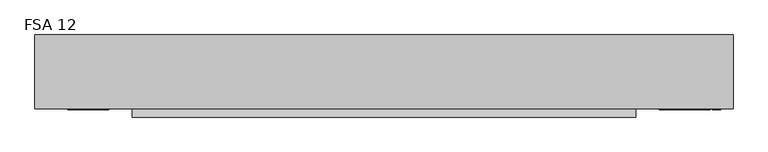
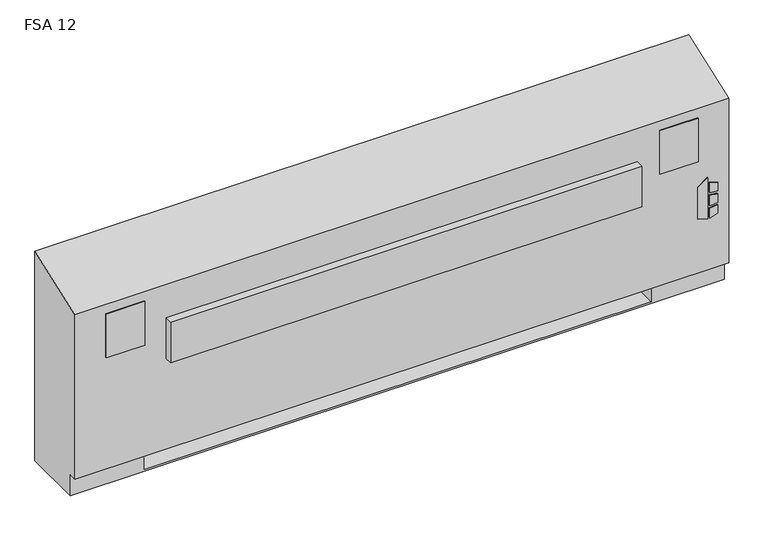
"""IFC4 building model written with IfcOpenShell, lengths in millimetres: proxy geometry, Vertical_Fan_Coil_Unit_-_FSA_-_IEC_-_4-Pipe_FS-FR_RH_2022 : FSA 12."""

from ifc_helpers import new_model, si_unit, point, frame, frame_2d, origin, place, context, project, spatial, polyline, circle_curve, trimmed, segment, composite_curve, outline, extrude, source, transform, mapped, element, save
from ifc_brep_helpers import plane_surface, revolved_surface, advanced_brep


def fsa_12_46d8cc71(model_context):
    return source(origin(), model_context, "Body", "SolidModel", [
        extrude(outline(polyline([(263.9480703, 1128.7868862), (254.0, 1160.9602728), (396.1709244, 1160.9602728), (373.1489183, 1128.7868862), (263.9480703, 1128.7868862)])), frame((0.0, 12.7, 0.0), z_axis=(0.0, 1.0, 0.0), x_axis=(0.0, 0.0, 1.0)), (0.0, 0.0, 1.0), 3.175),
        extrude(outline(polyline([(342.9473557, 1167.7186058), (339.7449632, 1193.8), (368.9738042, 1193.8), (377.0382193, 1167.7186058), (342.9473557, 1167.7186058)])), frame((0.0, 12.7, 0.0), z_axis=(0.0, 1.0, 0.0), x_axis=(0.0, 0.0, 1.0)), (0.0, 0.0, 1.0), 3.175),
        extrude(outline(polyline([(291.0838288, 1193.8), (287.4183279, 1167.7186058), (254.0, 1167.7186058), (262.6342372, 1193.8), (291.0838288, 1193.8)])), frame((0.0, 12.7, 0.0), z_axis=(0.0, 1.0, 0.0), x_axis=(0.0, 0.0, 1.0)), (0.0, 0.0, 1.0), 3.175),
        extrude(outline(polyline([(330.3989903, 1193.8), (332.6808166, 1167.7186058), (296.7432681, 1167.7186058), (299.4845331, 1193.8), (330.3989903, 1193.8)])), frame((0.0, 12.7, 0.0), z_axis=(0.0, 1.0, 0.0), x_axis=(0.0, 0.0, 1.0)), (0.0, 0.0, 1.0), 3.175),
        extrude(outline(polyline([(-806.45, 81.534), (-806.45, 223.266), (-685.8, 223.266), (-685.8, 81.534), (-806.45, 81.534)])), frame((0.0, 0.0, 327.025), z_axis=(0.0, 0.0, 1.0), x_axis=(1.0, 0.0, 0.0)), (0.0, 0.0, 1.0), 260.35),
        extrude(outline(polyline([(-698.5, 12.7), (-825.5, 12.7), (-825.5, 15.875), (-698.5, 15.875), (-698.5, 12.7)])), frame((0.0, 0.0, 463.55), z_axis=(0.0, 0.0, 1.0), x_axis=(1.0, 0.0, 0.0)), (0.0, 0.0, 1.0), 152.4),
        extrude(outline(polyline([(1130.3, 12.7), (1003.3, 12.7), (1003.3, 15.875), (1130.3, 15.875), (1130.3, 12.7)])), frame((0.0, 0.0, 463.55), z_axis=(0.0, 0.0, 1.0), x_axis=(1.0, 0.0, 0.0)), (0.0, 0.0, 1.0), 152.4),
        extrude(outline(composite_curve([segment(trimmed(circle_curve(frame_2d((1054.1, 130.175)), 9.525), [point((1044.575, 130.175))], [point((1063.625, 130.175))], False, "CARTESIAN"), True, "CONTINUOUS"), segment(trimmed(circle_curve(frame_2d((1054.1, 130.175)), 9.525), [point((1063.625, 130.175))], [point((1044.575, 130.175))], False, "CARTESIAN"), True, "CONTINUOUS")], self_intersect=False)), frame((0.0, 0.0, 101.6), z_axis=(0.0, 0.0, 1.0), x_axis=(1.0, 0.0, 0.0)), (0.0, 0.0, 1.0), 25.4),
        extrude(outline(polyline([(1155.7, 196.85), (1155.7, 63.5), (990.6, 63.5), (990.6, 196.85), (1155.7, 196.85)])), frame((0.0, 0.0, 127.0), z_axis=(0.0, 0.0, 1.0), x_axis=(1.0, 0.0, 0.0)), (0.0, 0.0, 1.0), 50.8),
        extrude(outline(polyline([(930.275, -9.525), (-625.475, -9.525), (-625.475, 15.875), (930.275, 15.875), (930.275, -9.525)])), frame((0.0, 0.0, 389.3009245), z_axis=(0.0, 0.0, 1.0), x_axis=(1.0, 0.0, 0.0)), (0.0, 0.0, 1.0), 142.875),
        extrude(outline(composite_curve([segment(trimmed(circle_curve(frame_2d((109.0168, 457.2)), 7.9375), [point((109.0168, 465.1375))], [point((109.0168, 449.2625))], False, "CARTESIAN"), True, "CONTINUOUS"), segment(trimmed(circle_curve(frame_2d((109.0168, 457.2)), 7.9375), [point((109.0168, 449.2625))], [point((109.0168, 465.1375))], False, "CARTESIAN"), True, "CONTINUOUS")], self_intersect=False)), frame((990.6, 0.0, 0.0), z_axis=(1.0, 0.0, 0.0), x_axis=(0.0, 1.0, 0.0)), (0.0, 0.0, 1.0), 50.8),
        extrude(outline(composite_curve([segment(trimmed(circle_curve(frame_2d((172.085, 460.0194)), 7.9375), [point((172.085, 467.9569))], [point((172.085, 452.0819))], False, "CARTESIAN"), True, "CONTINUOUS"), segment(trimmed(circle_curve(frame_2d((172.085, 460.0194)), 7.9375), [point((172.085, 452.0819))], [point((172.085, 467.9569))], False, "CARTESIAN"), True, "CONTINUOUS")], self_intersect=False)), frame((990.6, 0.0, 0.0), z_axis=(1.0, 0.0, 0.0), x_axis=(0.0, 1.0, 0.0)), (0.0, 0.0, 1.0), 50.8),
        extrude(outline(composite_curve([segment(trimmed(circle_curve(frame_2d((53.975, 416.56)), 7.9502), [point((53.975, 424.5102))], [point((53.975, 408.6098))], False, "CARTESIAN"), True, "CONTINUOUS"), segment(trimmed(circle_curve(frame_2d((53.975, 416.56)), 7.9502), [point((53.975, 408.6098))], [point((53.975, 424.5102))], False, "CARTESIAN"), True, "CONTINUOUS")], self_intersect=False)), frame((990.6, 0.0, 0.0), z_axis=(1.0, 0.0, 0.0), x_axis=(0.0, 1.0, 0.0)), (0.0, 0.0, 1.0), 50.8),
        extrude(outline(composite_curve([segment(trimmed(circle_curve(frame_2d((130.175, 554.99)), 7.9502), [point((130.175, 562.9402))], [point((130.175, 547.0398))], False, "CARTESIAN"), True, "CONTINUOUS"), segment(trimmed(circle_curve(frame_2d((130.175, 554.99)), 7.9502), [point((130.175, 547.0398))], [point((130.175, 562.9402))], False, "CARTESIAN"), True, "CONTINUOUS")], self_intersect=False)), frame((990.6, 0.0, 0.0), z_axis=(1.0, 0.0, 0.0), x_axis=(0.0, 1.0, 0.0)), (0.0, 0.0, 1.0), 50.8),
        advanced_brep(
        [(-927.1, 244.475, 0.0), (1231.9, 244.475, 0.0), (1231.9, 41.275, 0.0), (-927.1, 41.275, 0.0), (-927.1, 244.475, 730.25), (1231.9, 244.475, 730.25), (990.6, 244.475, 73.025), (1219.2, 244.475, 73.025), (1219.2, 244.475, 654.05), (990.6, 244.475, 654.05), (990.6, 244.475, 414.8650565), (1019.175, 244.475, 414.8650565), (1019.175, 244.475, 385.2349435), (990.6, 244.475, 385.2349435), (990.6, 244.475, 287.3375), (1019.175, 244.475, 287.3375), (1019.175, 244.475, 258.7625), (990.6, 244.475, 258.7625), (990.6, 244.475, 141.2875), (1019.175, 244.475, 141.2875), (1019.175, 244.475, 112.7125), (990.6, 244.475, 112.7125), (-685.8, 244.475, 654.05), (-914.4, 244.475, 654.05), (-914.4, 244.475, 73.025), (-685.8, 244.475, 73.025), (-685.8, 244.475, 112.7125), (-714.375, 244.475, 112.7125), (-714.375, 244.475, 141.2875), (-685.8, 244.475, 141.2875), (-685.8, 244.475, 258.7625), (-714.375, 244.475, 258.7625), (-714.375, 244.475, 287.3375), (-685.8, 244.475, 287.3375), (-685.8, 244.475, 385.2349435), (-714.375, 244.475, 385.2349435), (-714.375, 244.475, 414.8650565), (-685.8, 244.475, 414.8650565), (1008.8626, 244.475, 127.0), (997.7374, 244.475, 127.0), (1008.8626, 244.475, 400.05), (997.7374, 244.475, 400.05), (1008.8626, 244.475, 273.05), (997.7374, 244.475, 273.05), (-692.9374, 244.475, 127.0), (-704.0626, 244.475, 127.0), (-692.9374, 244.475, 273.05), (-704.0626, 244.475, 273.05), (-692.9374, 244.475, 400.05), (-704.0626, 244.475, 400.05), (-927.1, 41.275, 73.025), (-927.1, 15.875, 73.025), (-927.1, 15.875, 647.7), (1231.9, 15.875, 73.025), (1231.9, 15.875, 647.7), (1231.9, 41.275, 73.025), (-685.8, 41.275, 73.025), (-685.8, 225.425, 73.025), (990.6, 225.425, 73.025), (990.6, 41.275, 73.025), (990.6, 41.275, 6.35), (-685.8, 41.275, 6.35), (990.6, 41.275, 654.05), (1219.2, 41.275, 654.05), (1219.2, 41.275, 73.025), (990.6, 41.275, 73.025), (-685.8, 41.275, 654.05), (-685.8, 41.275, 73.025), (-914.4, 41.275, 73.025), (-914.4, 41.275, 654.05), (990.6, 225.425, 73.025), (990.6, 238.125, 112.7125), (990.6, 238.125, 141.2875), (990.6, 238.125, 258.7625), (990.6, 238.125, 287.3375), (990.6, 238.125, 385.2349435), (990.6, 238.125, 414.8650565), (-685.8, 225.425, 73.025), (-685.8, 238.125, 414.8650565), (-685.8, 238.125, 385.2349435), (-685.8, 238.125, 287.3375), (-685.8, 238.125, 258.7625), (-685.8, 238.125, 141.2875), (-685.8, 238.125, 112.7125), (-685.8, 225.425, 6.35), (990.6, 225.425, 6.35), (1019.175, 238.125, 112.7125), (1019.175, 238.125, 141.2875), (997.7374, 238.125, 127.0), (1008.8626, 238.125, 127.0), (1019.175, 238.125, 258.7625), (1019.175, 238.125, 287.3375), (997.7374, 238.125, 273.05), (1008.8626, 238.125, 273.05), (1019.175, 238.125, 385.2349435), (1019.175, 238.125, 414.8650565), (997.7374, 238.125, 400.05), (1008.8626, 238.125, 400.05), (-714.375, 238.125, 141.2875), (-714.375, 238.125, 112.7125), (-704.0626, 238.125, 127.0), (-692.9374, 238.125, 127.0), (-714.375, 238.125, 287.3375), (-714.375, 238.125, 258.7625), (-704.0626, 238.125, 273.05), (-692.9374, 238.125, 273.05), (-714.375, 238.125, 414.8650565), (-714.375, 238.125, 385.2349435), (-704.0626, 238.125, 400.05), (-692.9374, 238.125, 400.05)],
        [
            (0, 1),
            (1, 2),
            (2, 3),
            (3, 0),
            (0, 4),
            (4, 5),
            (5, 1),
            (6, 7),
            (7, 8),
            (8, 9),
            (9, 10),
            (10, 11),
            (11, 12),
            (12, 13),
            (13, 14),
            (14, 15),
            (15, 16),
            (16, 17),
            (17, 18),
            (18, 19),
            (19, 20),
            (20, 21),
            (21, 6),
            (22, 23),
            (23, 24),
            (24, 25),
            (25, 26),
            (26, 27),
            (27, 28),
            (28, 29),
            (29, 30),
            (30, 31),
            (31, 32),
            (32, 33),
            (33, 34),
            (34, 35),
            (35, 36),
            (36, 37),
            (37, 22),
            (38, 39, circle_curve(frame((1003.3, 244.475, 127.0), z_axis=(0.0, -1.0, 0.0), x_axis=(-1.0, 0.0, 0.0)), 5.5626)),
            (39, 38, circle_curve(frame((1003.3, 244.475, 127.0), z_axis=(0.0, -1.0, 0.0), x_axis=(-1.0, 0.0, 0.0)), 5.5626)),
            (40, 41, circle_curve(frame((1003.3, 244.475, 400.05), z_axis=(0.0, -1.0, 0.0), x_axis=(-1.0, 0.0, 0.0)), 5.5626)),
            (41, 40, circle_curve(frame((1003.3, 244.475, 400.05), z_axis=(0.0, -1.0, 0.0), x_axis=(-1.0, 0.0, 0.0)), 5.5626)),
            (42, 43, circle_curve(frame((1003.3, 244.475, 273.05), z_axis=(0.0, -1.0, 0.0), x_axis=(-1.0, 0.0, 0.0)), 5.5626)),
            (43, 42, circle_curve(frame((1003.3, 244.475, 273.05), z_axis=(0.0, -1.0, 0.0), x_axis=(-1.0, 0.0, 0.0)), 5.5626)),
            (44, 45, circle_curve(frame((-698.5, 244.475, 127.0), z_axis=(0.0, -1.0, 0.0), x_axis=(-1.0, 0.0, 0.0)), 5.5626)),
            (45, 44, circle_curve(frame((-698.5, 244.475, 127.0), z_axis=(0.0, -1.0, 0.0), x_axis=(-1.0, 0.0, 0.0)), 5.5626)),
            (46, 47, circle_curve(frame((-698.5, 244.475, 273.05), z_axis=(0.0, -1.0, 0.0), x_axis=(-1.0, 0.0, 0.0)), 5.5626)),
            (47, 46, circle_curve(frame((-698.5, 244.475, 273.05), z_axis=(0.0, -1.0, 0.0), x_axis=(-1.0, 0.0, 0.0)), 5.5626)),
            (48, 49, circle_curve(frame((-698.5, 244.475, 400.05), z_axis=(0.0, -1.0, 0.0), x_axis=(-1.0, 0.0, 0.0)), 5.5626)),
            (49, 48, circle_curve(frame((-698.5, 244.475, 400.05), z_axis=(0.0, -1.0, 0.0), x_axis=(-1.0, 0.0, 0.0)), 5.5626)),
            (3, 50),
            (50, 51),
            (51, 52),
            (52, 4),
            (51, 53),
            (53, 54),
            (54, 52),
            (5, 54),
            (53, 55),
            (55, 2),
            (50, 56),
            (56, 57),
            (57, 58),
            (58, 59),
            (59, 55),
            (59, 60),
            (60, 61),
            (61, 56),
            (62, 63),
            (63, 64),
            (64, 65),
            (65, 62),
            (66, 67),
            (67, 68),
            (68, 69),
            (69, 66),
            (65, 70),
            (70, 6),
            (21, 71),
            (71, 72),
            (72, 18),
            (17, 73),
            (73, 74),
            (74, 14),
            (13, 75),
            (75, 76),
            (76, 10),
            (9, 62),
            (64, 7),
            (63, 8),
            (69, 23),
            (22, 66),
            (68, 24),
            (67, 77),
            (77, 25),
            (37, 78),
            (78, 79),
            (79, 34),
            (33, 80),
            (80, 81),
            (81, 30),
            (29, 82),
            (82, 83),
            (83, 26),
            (57, 84),
            (84, 85),
            (85, 58),
            (85, 60),
            (84, 61),
            (71, 86),
            (86, 87),
            (87, 72),
            (88, 89, circle_curve(frame((1003.3, 238.125, 127.0), z_axis=(0.0, 1.0, 0.0), x_axis=(-1.0, 0.0, 0.0)), 5.5626)),
            (89, 88, circle_curve(frame((1003.3, 238.125, 127.0), z_axis=(0.0, 1.0, 0.0), x_axis=(-1.0, 0.0, 0.0)), 5.5626)),
            (73, 90),
            (90, 91),
            (91, 74),
            (92, 93, circle_curve(frame((1003.3, 238.125, 273.05), z_axis=(0.0, 1.0, 0.0), x_axis=(-1.0, 0.0, 0.0)), 5.5626)),
            (93, 92, circle_curve(frame((1003.3, 238.125, 273.05), z_axis=(0.0, 1.0, 0.0), x_axis=(-1.0, 0.0, 0.0)), 5.5626)),
            (75, 94),
            (94, 95),
            (95, 76),
            (96, 97, circle_curve(frame((1003.3, 238.125, 400.05), z_axis=(0.0, 1.0, 0.0), x_axis=(-1.0, 0.0, 0.0)), 5.5626)),
            (97, 96, circle_curve(frame((1003.3, 238.125, 400.05), z_axis=(0.0, 1.0, 0.0), x_axis=(-1.0, 0.0, 0.0)), 5.5626)),
            (98, 99),
            (99, 83),
            (82, 98),
            (100, 101, circle_curve(frame((-698.5, 238.125, 127.0), z_axis=(0.0, 1.0, 0.0), x_axis=(-1.0, 0.0, 0.0)), 5.5626)),
            (101, 100, circle_curve(frame((-698.5, 238.125, 127.0), z_axis=(0.0, 1.0, 0.0), x_axis=(-1.0, 0.0, 0.0)), 5.5626)),
            (102, 103),
            (103, 81),
            (80, 102),
            (104, 105, circle_curve(frame((-698.5, 238.125, 273.05), z_axis=(0.0, 1.0, 0.0), x_axis=(-1.0, 0.0, 0.0)), 5.5626)),
            (105, 104, circle_curve(frame((-698.5, 238.125, 273.05), z_axis=(0.0, 1.0, 0.0), x_axis=(-1.0, 0.0, 0.0)), 5.5626)),
            (106, 107),
            (107, 79),
            (78, 106),
            (108, 109, circle_curve(frame((-698.5, 238.125, 400.05), z_axis=(0.0, 1.0, 0.0), x_axis=(-1.0, 0.0, 0.0)), 5.5626)),
            (109, 108, circle_curve(frame((-698.5, 238.125, 400.05), z_axis=(0.0, 1.0, 0.0), x_axis=(-1.0, 0.0, 0.0)), 5.5626)),
            (87, 19),
            (86, 20),
            (91, 15),
            (90, 16),
            (95, 11),
            (94, 12),
            (28, 98),
            (99, 27),
            (32, 102),
            (103, 31),
            (36, 106),
            (107, 35),
            (88, 39),
            (38, 89),
            (96, 41),
            (40, 97),
            (92, 43),
            (42, 93),
            (100, 45),
            (44, 101),
            (104, 47),
            (46, 105),
            (108, 49),
            (48, 109),
        ],
        [
            plane_surface(frame((-927.1, 244.475, 0.0), z_axis=(0.0, 0.0, -1.0), x_axis=(1.0, 0.0, 0.0))),
            plane_surface(frame((1231.9, 244.475, 730.25), z_axis=(0.0, 1.0, 0.0), x_axis=(0.0, 0.0, -1.0))),
            plane_surface(frame((-927.1, 244.475, 730.25), z_axis=(-1.0, 0.0, 0.0), x_axis=(0.0, 0.0, -1.0))),
            plane_surface(frame((-927.1, 15.875, 730.25), z_axis=(0.0, -1.0, 0.0), x_axis=(0.0, 0.0, -1.0))),
            plane_surface(frame((1231.9, 15.875, 730.25), z_axis=(1.0, 0.0, 0.0), x_axis=(0.0, 0.0, -1.0))),
            plane_surface(frame((-927.1, 15.875, 73.025), z_axis=(0.0, 0.0, -1.0), x_axis=(1.0, 0.0, 0.0))),
            plane_surface(frame((-927.1, 41.275, 73.025), z_axis=(0.0, -1.0, 0.0), x_axis=(1.0, 0.0, 0.0))),
            plane_surface(frame((990.6, 41.275, 654.05), z_axis=(0.0, 1.0, 0.0), x_axis=(0.0, 0.0, -1.0))),
            plane_surface(frame((990.6, 41.275, 654.05), z_axis=(1.0, 0.0, 0.0), x_axis=(0.0, 1.0, 0.0))),
            plane_surface(frame((990.6, 41.275, 73.025), z_axis=(0.0, 0.0, 1.0), x_axis=(0.0, 1.0, 0.0))),
            plane_surface(frame((1219.2, 41.275, 73.025), z_axis=(-1.0, 0.0, 0.0), x_axis=(0.0, 1.0, 0.0))),
            plane_surface(frame((1219.2, 41.275, 654.05), z_axis=(0.0, 0.0, -1.0), x_axis=(0.0, 1.0, 0.0))),
            plane_surface(frame((-685.8, 41.275, 654.05), z_axis=(0.0, 0.0, -1.0), x_axis=(0.0, 1.0, 0.0))),
            plane_surface(frame((-914.4, 41.275, 654.05), z_axis=(1.0, 0.0, 0.0), x_axis=(0.0, 1.0, 0.0))),
            plane_surface(frame((-914.4, 41.275, 73.025), z_axis=(0.0, 0.0, 1.0), x_axis=(0.0, 1.0, 0.0))),
            plane_surface(frame((-685.8, 41.275, 73.025), z_axis=(-1.0, 0.0, 0.0), x_axis=(0.0, 1.0, 0.0))),
            plane_surface(frame((990.6, 225.425, 73.025), z_axis=(0.0, -1.0, 0.0), x_axis=(0.0, 0.0, -1.0))),
            plane_surface(frame((990.6, 225.425, 73.025), z_axis=(-1.0, 0.0, 0.0), x_axis=(0.0, -1.0, 0.0))),
            plane_surface(frame((990.6, 225.425, 6.35), z_axis=(0.0, 0.0, 1.0), x_axis=(0.0, -1.0, 0.0))),
            plane_surface(frame((-685.8, 225.425, 6.35), z_axis=(1.0, 0.0, 0.0), x_axis=(0.0, -1.0, 0.0))),
            plane_surface(frame((1019.175, 238.125, 141.2875), z_axis=(0.0, -1.0, 0.0), x_axis=(-1.0, 0.0, 0.0))),
            plane_surface(frame((990.6, 244.475, 141.2875), z_axis=(0.0, 0.0, 1.0), x_axis=(0.0, -1.0, 0.0))),
            plane_surface(frame((1019.175, 244.475, 141.2875), z_axis=(1.0, 0.0, 0.0), x_axis=(0.0, -1.0, 0.0))),
            plane_surface(frame((1019.175, 244.475, 112.7125), z_axis=(0.0, 0.0, -1.0), x_axis=(0.0, -1.0, 0.0))),
            plane_surface(frame((990.6, 244.475, 287.3375), z_axis=(0.0, 0.0, 1.0), x_axis=(0.0, -1.0, 0.0))),
            plane_surface(frame((1019.175, 244.475, 287.3375), z_axis=(1.0, 0.0, 0.0), x_axis=(0.0, -1.0, 0.0))),
            plane_surface(frame((1019.175, 244.475, 258.7625), z_axis=(0.0, 0.0, -1.0), x_axis=(0.0, -1.0, 0.0))),
            plane_surface(frame((990.6, 244.475, 414.8650565), z_axis=(0.0, 0.0, 1.0), x_axis=(0.0, -1.0, 0.0))),
            plane_surface(frame((1019.175, 244.475, 414.8650565), z_axis=(1.0, 0.0, 0.0), x_axis=(0.0, -1.0, 0.0))),
            plane_surface(frame((1019.175, 244.475, 385.2349435), z_axis=(0.0, 0.0, -1.0), x_axis=(0.0, -1.0, 0.0))),
            plane_surface(frame((-714.375, 244.475, 141.2875), z_axis=(0.0, 0.0, 1.0), x_axis=(0.0, -1.0, 0.0))),
            plane_surface(frame((-685.8, 244.475, 112.7125), z_axis=(0.0, 0.0, -1.0), x_axis=(0.0, -1.0, 0.0))),
            plane_surface(frame((-714.375, 244.475, 112.7125), z_axis=(-1.0, 0.0, 0.0), x_axis=(0.0, -1.0, 0.0))),
            plane_surface(frame((-714.375, 244.475, 287.3375), z_axis=(0.0, 0.0, 1.0), x_axis=(0.0, -1.0, 0.0))),
            plane_surface(frame((-685.8, 244.475, 258.7625), z_axis=(0.0, 0.0, -1.0), x_axis=(0.0, -1.0, 0.0))),
            plane_surface(frame((-714.375, 244.475, 258.7625), z_axis=(-1.0, 0.0, 0.0), x_axis=(0.0, -1.0, 0.0))),
            plane_surface(frame((-714.375, 244.475, 414.8650565), z_axis=(0.0, 0.0, 1.0), x_axis=(0.0, -1.0, 0.0))),
            plane_surface(frame((-685.8, 244.475, 385.2349435), z_axis=(0.0, 0.0, -1.0), x_axis=(0.0, -1.0, 0.0))),
            plane_surface(frame((-714.375, 244.475, 385.2349435), z_axis=(-1.0, 0.0, 0.0), x_axis=(0.0, -1.0, 0.0))),
            revolved_surface(polyline([(997.7374, 238.125, 127.0), (997.7374, 244.475, 127.0)]), (1003.3, 244.475, 127.0), (0.0, -1.0, 0.0)),
            revolved_surface(polyline([(997.7374, 238.125, 400.05), (997.7374, 244.475, 400.05)]), (1003.3, 244.475, 400.05), (0.0, -1.0, 0.0)),
            revolved_surface(polyline([(997.7374, 238.125, 273.05), (997.7374, 244.475, 273.05)]), (1003.3, 244.475, 273.05), (0.0, -1.0, 0.0)),
            revolved_surface(polyline([(-704.0626, 238.125, 127.0), (-704.0626, 244.475, 127.0)]), (-698.5, 244.475, 127.0), (0.0, -1.0, 0.0)),
            revolved_surface(polyline([(-704.0626, 238.125, 273.05), (-704.0626, 244.475, 273.05)]), (-698.5, 244.475, 273.05), (0.0, -1.0, 0.0)),
            revolved_surface(polyline([(-704.0626, 238.125, 400.05), (-704.0626, 244.475, 400.05)]), (-698.5, 244.475, 400.05), (0.0, -1.0, 0.0)),
            plane_surface(frame((-927.1, 244.475, 730.25), z_axis=(0.0, -0.33964446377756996, 0.9405538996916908), x_axis=(1.0, 0.0, 0.0))),
        ],
        [
            (0, [[1, 2, 3, 4]]),
            (1, [[-1, 5, 6, 7], [8, 9, 10, 11, 12, 13, 14, 15, 16, 17, 18, 19, 20, 21, 22, 23], [24, 25, 26, 27, 28, 29, 30, 31, 32, 33, 34, 35, 36, 37, 38, 39], [40, 41], [42, 43], [44, 45], [46, 47], [48, 49], [50, 51]]),
            (2, [[-5, -4, 52, 53, 54, 55]]),
            (3, [[56, 57, 58, -54]]),
            (4, [[-7, 59, -57, 60, 61, -2]]),
            (5, [[-53, 62, 63, 64, 65, 66, -60, -56]]),
            (6, [[-3, -61, -66, 67, 68, 69, -62, -52]]),
            (7, [[70, 71, 72, 73]]),
            (7, [[74, 75, 76, 77]]),
            (8, [[-73, 78, 79, -23, 80, 81, 82, -19, 83, 84, 85, -15, 86, 87, 88, -11, 89]]),
            (9, [[-72, 90, -8, -79, -78]]),
            (10, [[-71, 91, -9, -90]]),
            (11, [[-70, -89, -10, -91]]),
            (12, [[-77, 92, -24, 93]]),
            (13, [[-76, 94, -25, -92]]),
            (14, [[-75, 95, 96, -26, -94]]),
            (15, [[-74, -93, -39, 97, 98, 99, -35, 100, 101, 102, -31, 103, 104, 105, -27, -96, -95]]),
            (16, [[-64, 106, 107, 108]]),
            (17, [[-108, 109, -67, -65]]),
            (18, [[-107, 110, -68, -109]]),
            (19, [[-106, -63, -69, -110]]),
            (20, [[111, 112, 113, -81], [114, 115]]),
            (20, [[116, 117, 118, -84], [119, 120]]),
            (20, [[121, 122, 123, -87], [124, 125]]),
            (20, [[126, 127, -104, 128], [129, 130]]),
            (20, [[131, 132, -101, 133], [134, 135]]),
            (20, [[136, 137, -98, 138], [139, 140]]),
            (21, [[-113, 141, -20, -82]]),
            (22, [[-112, 142, -21, -141]]),
            (23, [[-111, -80, -22, -142]]),
            (24, [[-118, 143, -16, -85]]),
            (25, [[-117, 144, -17, -143]]),
            (26, [[-116, -83, -18, -144]]),
            (27, [[-123, 145, -12, -88]]),
            (28, [[-122, 146, -13, -145]]),
            (29, [[-121, -86, -14, -146]]),
            (30, [[-128, -103, -30, 147]]),
            (31, [[-127, 148, -28, -105]]),
            (32, [[-126, -147, -29, -148]]),
            (33, [[-133, -100, -34, 149]]),
            (34, [[-132, 150, -32, -102]]),
            (35, [[-131, -149, -33, -150]]),
            (36, [[-138, -97, -38, 151]]),
            (37, [[-137, 152, -36, -99]]),
            (38, [[-136, -151, -37, -152]]),
            (39, [[153, -40, 154, -114]]),
            (39, [[-153, -115, -154, -41]]),
            (40, [[155, -42, 156, -124]]),
            (40, [[-155, -125, -156, -43]]),
            (41, [[157, -44, 158, -119]]),
            (41, [[-157, -120, -158, -45]]),
            (42, [[159, -46, 160, -129]]),
            (42, [[-159, -130, -160, -47]]),
            (43, [[161, -48, 162, -134]]),
            (43, [[-161, -135, -162, -49]]),
            (44, [[163, -50, 164, -139]]),
            (44, [[-163, -140, -164, -51]]),
            (45, [[-6, -55, -58, -59]]),
        ],
    ),
    ])


if __name__ == "__main__":
    model = new_model("IFC4")
    model_context = context("Model", 3, world=origin())
    ifc_project = project(units=[si_unit("LENGTHUNIT", "METRE", prefix="MILLI")], contexts=[model_context])
    site = spatial("IfcSite", under=ifc_project)
    building = spatial("IfcBuilding", under=site)
    placement = place(None, origin())
    fsa_12_shape = fsa_12_46d8cc71(model_context)
    element("IfcBuildingElementProxy", 1, Name="Vertical_Fan_Coil_Unit_-_FSA_-_IEC_-_4-Pipe_FS-FR_RH_2022 : FSA 12", ObjectType="Vertical_Fan_Coil_Unit_-_FSA_-_IEC_-_4-Pipe_FS-FR_RH_2022 : FSA 12", at=placement, inside=building, context=model_context, shape_type="MappedRepresentation", body=[
        mapped(fsa_12_shape, transform((0.0, 0.0, 0.0), x_axis=(1.0, 0.0, 0.0), y_axis=(0.0, 1.0, 0.0), z_axis=(0.0, 0.0, 1.0))),
    ])
    save(model, "model.ifc")
